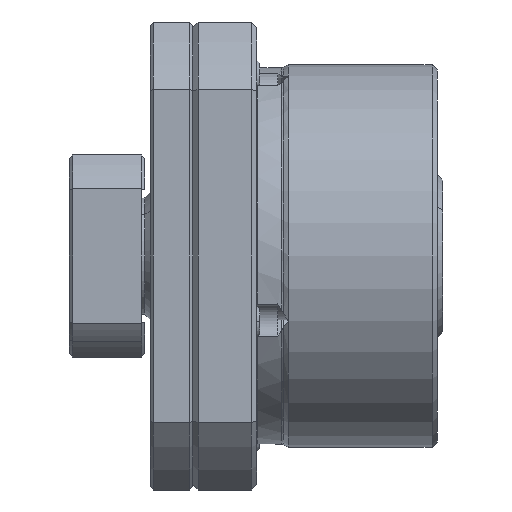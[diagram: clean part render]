
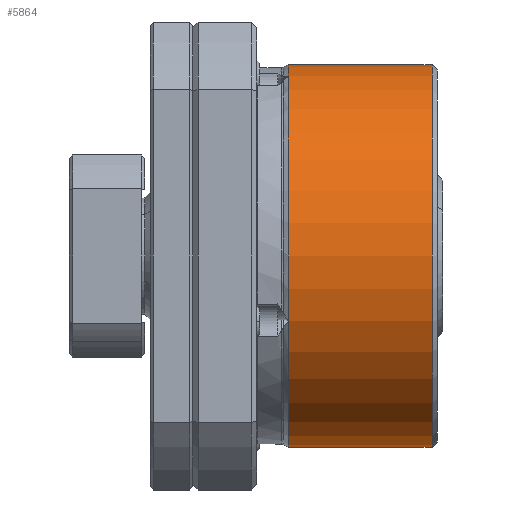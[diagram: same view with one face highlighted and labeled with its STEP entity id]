
A CAD part, front view. The second image highlights one B-rep face of the part: STEP entity #5864.
In plain terms, the highlighted cylindrical face has radius 18 mm (diameter 36 mm), a partial arc.
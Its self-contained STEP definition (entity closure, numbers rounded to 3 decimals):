
#25 = AXIS2_PLACEMENT_3D ( 'NONE', #7149, #1363, #5067 ) ;
#50 = CARTESIAN_POINT ( 'NONE',  ( 22.5, 0., 18. ) ) ;
#792 = DIRECTION ( 'NONE',  ( -1., 0., 0. ) ) ;
#872 = EDGE_CURVE ( 'NONE', #4715, #5583, #6465, .T. ) ;
#1071 = EDGE_LOOP ( 'NONE', ( #1217, #4354, #4970, #2727 ) ) ;
#1217 = ORIENTED_EDGE ( 'NONE', *, *, #1793, .F. ) ;
#1276 = VERTEX_POINT ( 'NONE', #50 ) ;
#1350 = VECTOR ( 'NONE', #1411, 1000. ) ;
#1351 = AXIS2_PLACEMENT_3D ( 'NONE', #8352, #792, #2522 ) ;
#1363 = DIRECTION ( 'NONE',  ( -1., 0., 0. ) ) ;
#1411 = DIRECTION ( 'NONE',  ( -1., 0., 0. ) ) ;
#1793 = EDGE_CURVE ( 'NONE', #4477, #4715, #8503, .T. ) ;
#2010 = CYLINDRICAL_SURFACE ( 'NONE', #1351, 18. ) ;
#2522 = DIRECTION ( 'NONE',  ( 0., 0., 1. ) ) ;
#2727 = ORIENTED_EDGE ( 'NONE', *, *, #872, .F. ) ;
#4113 = CARTESIAN_POINT ( 'NONE',  ( 22.5, 0., 0. ) ) ;
#4231 = CARTESIAN_POINT ( 'NONE',  ( -5.326, 0., -18. ) ) ;
#4354 = ORIENTED_EDGE ( 'NONE', *, *, #8862, .T. ) ;
#4477 = VERTEX_POINT ( 'NONE', #6380 ) ;
#4715 = VERTEX_POINT ( 'NONE', #8618 ) ;
#4793 = CARTESIAN_POINT ( 'NONE',  ( 9., 0., 18. ) ) ;
#4970 = ORIENTED_EDGE ( 'NONE', *, *, #6871, .T. ) ;
#5067 = DIRECTION ( 'NONE',  ( 0., 0., 1. ) ) ;
#5215 = CIRCLE ( 'NONE', #5946, 18. ) ;
#5256 = DIRECTION ( 'NONE',  ( 0., 0., 1. ) ) ;
#5583 = VERTEX_POINT ( 'NONE', #4793 ) ;
#5864 = ADVANCED_FACE ( 'NONE', ( #6154 ), #2010, .T. ) ;
#5946 = AXIS2_PLACEMENT_3D ( 'NONE', #4113, #6447, #5256 ) ;
#6057 = VECTOR ( 'NONE', #6847, 1000. ) ;
#6154 = FACE_OUTER_BOUND ( 'NONE', #1071, .T. ) ;
#6380 = CARTESIAN_POINT ( 'NONE',  ( 22.5, 0., -18. ) ) ;
#6447 = DIRECTION ( 'NONE',  ( -1., 0., 0. ) ) ;
#6465 = CIRCLE ( 'NONE', #25, 18. ) ;
#6847 = DIRECTION ( 'NONE',  ( -1., 0., 0. ) ) ;
#6871 = EDGE_CURVE ( 'NONE', #1276, #5583, #7888, .T. ) ;
#7149 = CARTESIAN_POINT ( 'NONE',  ( 9., 0., 0. ) ) ;
#7888 = LINE ( 'NONE', #8329, #6057 ) ;
#8329 = CARTESIAN_POINT ( 'NONE',  ( -5.326, 0., 18. ) ) ;
#8352 = CARTESIAN_POINT ( 'NONE',  ( -5.326, 0., 0. ) ) ;
#8503 = LINE ( 'NONE', #4231, #1350 ) ;
#8618 = CARTESIAN_POINT ( 'NONE',  ( 9., 0., -18. ) ) ;
#8862 = EDGE_CURVE ( 'NONE', #4477, #1276, #5215, .T. ) ;
